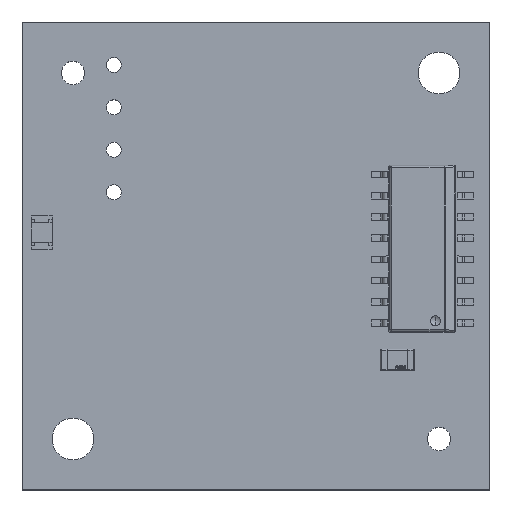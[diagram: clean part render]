
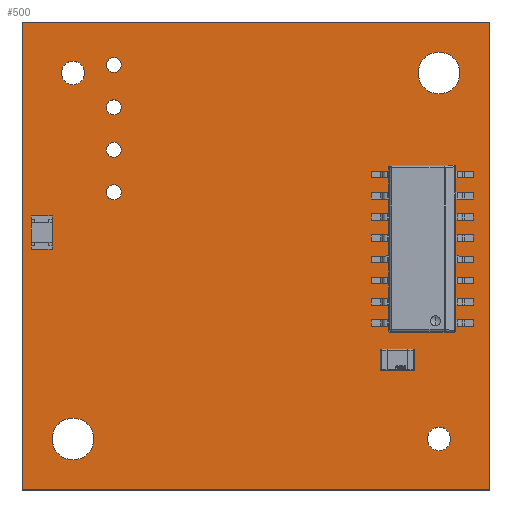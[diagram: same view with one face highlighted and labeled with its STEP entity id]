
A CAD part, top view. The second image highlights one B-rep face of the part: STEP entity #500.
In plain terms, the highlighted planar face has unit normal (0, 0, 1).
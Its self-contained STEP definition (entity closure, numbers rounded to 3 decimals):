
#83 = VERTEX_POINT('',#84);
#84 = CARTESIAN_POINT('',(-11.054,-1.478,0.));
#90 = EDGE_CURVE('',#83,#91,#93,.T.);
#91 = VERTEX_POINT('',#92);
#92 = CARTESIAN_POINT('',(16.946,-1.478,0.));
#93 = LINE('',#94,#95);
#94 = CARTESIAN_POINT('',(-11.054,-1.478,0.));
#95 = VECTOR('',#96,1.);
#96 = DIRECTION('',(1.,0.,0.));
#121 = EDGE_CURVE('',#91,#122,#124,.T.);
#122 = VERTEX_POINT('',#123);
#123 = CARTESIAN_POINT('',(16.946,26.522,0.));
#124 = LINE('',#125,#126);
#125 = CARTESIAN_POINT('',(16.946,-1.478,0.));
#126 = VECTOR('',#127,1.);
#127 = DIRECTION('',(0.,1.,0.));
#152 = EDGE_CURVE('',#122,#153,#155,.T.);
#153 = VERTEX_POINT('',#154);
#154 = CARTESIAN_POINT('',(-11.054,26.522,0.));
#155 = LINE('',#156,#157);
#156 = CARTESIAN_POINT('',(16.946,26.522,0.));
#157 = VECTOR('',#158,1.);
#158 = DIRECTION('',(-1.,0.,0.));
#183 = EDGE_CURVE('',#153,#83,#184,.T.);
#184 = LINE('',#185,#186);
#185 = CARTESIAN_POINT('',(-11.054,26.522,0.));
#186 = VECTOR('',#187,1.);
#187 = DIRECTION('',(0.,-1.,0.));
#207 = VERTEX_POINT('',#208);
#208 = CARTESIAN_POINT('',(-6.754,1.572,0.));
#214 = EDGE_CURVE('',#207,#207,#215,.T.);
#215 = CIRCLE('',#216,1.25);
#216 = AXIS2_PLACEMENT_3D('',#217,#218,#219);
#217 = CARTESIAN_POINT('',(-8.004,1.572,0.));
#218 = DIRECTION('',(0.,0.,1.));
#219 = DIRECTION('',(1.,0.,0.));
#240 = VERTEX_POINT('',#241);
#241 = CARTESIAN_POINT('',(-5.113,16.332,0.));
#247 = EDGE_CURVE('',#240,#240,#248,.T.);
#248 = CIRCLE('',#249,0.45);
#249 = AXIS2_PLACEMENT_3D('',#250,#251,#252);
#250 = CARTESIAN_POINT('',(-5.563,16.332,0.));
#251 = DIRECTION('',(0.,0.,1.));
#252 = DIRECTION('',(1.,0.,0.));
#273 = VERTEX_POINT('',#274);
#274 = CARTESIAN_POINT('',(-7.304,23.472,0.));
#280 = EDGE_CURVE('',#273,#273,#281,.T.);
#281 = CIRCLE('',#282,0.7);
#282 = AXIS2_PLACEMENT_3D('',#283,#284,#285);
#283 = CARTESIAN_POINT('',(-8.004,23.472,0.));
#284 = DIRECTION('',(0.,0.,1.));
#285 = DIRECTION('',(1.,0.,0.));
#306 = VERTEX_POINT('',#307);
#307 = CARTESIAN_POINT('',(-5.113,18.872,0.));
#313 = EDGE_CURVE('',#306,#306,#314,.T.);
#314 = CIRCLE('',#315,0.45);
#315 = AXIS2_PLACEMENT_3D('',#316,#317,#318);
#316 = CARTESIAN_POINT('',(-5.563,18.872,0.));
#317 = DIRECTION('',(0.,0.,1.));
#318 = DIRECTION('',(1.,0.,0.));
#339 = VERTEX_POINT('',#340);
#340 = CARTESIAN_POINT('',(-5.113,21.412,0.));
#346 = EDGE_CURVE('',#339,#339,#347,.T.);
#347 = CIRCLE('',#348,0.45);
#348 = AXIS2_PLACEMENT_3D('',#349,#350,#351);
#349 = CARTESIAN_POINT('',(-5.563,21.412,0.));
#350 = DIRECTION('',(0.,0.,1.));
#351 = DIRECTION('',(1.,0.,0.));
#372 = VERTEX_POINT('',#373);
#373 = CARTESIAN_POINT('',(14.596,1.572,0.));
#379 = EDGE_CURVE('',#372,#372,#380,.T.);
#380 = CIRCLE('',#381,0.7);
#381 = AXIS2_PLACEMENT_3D('',#382,#383,#384);
#382 = CARTESIAN_POINT('',(13.896,1.572,0.));
#383 = DIRECTION('',(0.,0.,1.));
#384 = DIRECTION('',(1.,0.,0.));
#405 = VERTEX_POINT('',#406);
#406 = CARTESIAN_POINT('',(-5.113,23.952,0.));
#412 = EDGE_CURVE('',#405,#405,#413,.T.);
#413 = CIRCLE('',#414,0.45);
#414 = AXIS2_PLACEMENT_3D('',#415,#416,#417);
#415 = CARTESIAN_POINT('',(-5.563,23.952,0.));
#416 = DIRECTION('',(0.,0.,1.));
#417 = DIRECTION('',(1.,0.,0.));
#438 = VERTEX_POINT('',#439);
#439 = CARTESIAN_POINT('',(15.146,23.472,0.));
#445 = EDGE_CURVE('',#438,#438,#446,.T.);
#446 = CIRCLE('',#447,1.25);
#447 = AXIS2_PLACEMENT_3D('',#448,#449,#450);
#448 = CARTESIAN_POINT('',(13.896,23.472,0.));
#449 = DIRECTION('',(0.,0.,1.));
#450 = DIRECTION('',(1.,0.,0.));
#500 = ADVANCED_FACE('',(#501,#507,#510,#513,#516,#519,#522,#525,#528),
  #531,.F.);
#501 = FACE_BOUND('',#502,.T.);
#502 = EDGE_LOOP('',(#503,#504,#505,#506));
#503 = ORIENTED_EDGE('',*,*,#90,.T.);
#504 = ORIENTED_EDGE('',*,*,#121,.T.);
#505 = ORIENTED_EDGE('',*,*,#152,.T.);
#506 = ORIENTED_EDGE('',*,*,#183,.T.);
#507 = FACE_BOUND('',#508,.F.);
#508 = EDGE_LOOP('',(#509));
#509 = ORIENTED_EDGE('',*,*,#214,.T.);
#510 = FACE_BOUND('',#511,.F.);
#511 = EDGE_LOOP('',(#512));
#512 = ORIENTED_EDGE('',*,*,#247,.T.);
#513 = FACE_BOUND('',#514,.F.);
#514 = EDGE_LOOP('',(#515));
#515 = ORIENTED_EDGE('',*,*,#280,.T.);
#516 = FACE_BOUND('',#517,.F.);
#517 = EDGE_LOOP('',(#518));
#518 = ORIENTED_EDGE('',*,*,#313,.T.);
#519 = FACE_BOUND('',#520,.F.);
#520 = EDGE_LOOP('',(#521));
#521 = ORIENTED_EDGE('',*,*,#346,.T.);
#522 = FACE_BOUND('',#523,.F.);
#523 = EDGE_LOOP('',(#524));
#524 = ORIENTED_EDGE('',*,*,#379,.T.);
#525 = FACE_BOUND('',#526,.F.);
#526 = EDGE_LOOP('',(#527));
#527 = ORIENTED_EDGE('',*,*,#412,.T.);
#528 = FACE_BOUND('',#529,.F.);
#529 = EDGE_LOOP('',(#530));
#530 = ORIENTED_EDGE('',*,*,#445,.T.);
#531 = PLANE('',#532);
#532 = AXIS2_PLACEMENT_3D('',#533,#534,#535);
#533 = CARTESIAN_POINT('',(-11.054,-1.478,0.));
#534 = DIRECTION('',(0.,0.,-1.));
#535 = DIRECTION('',(-1.,0.,0.));
